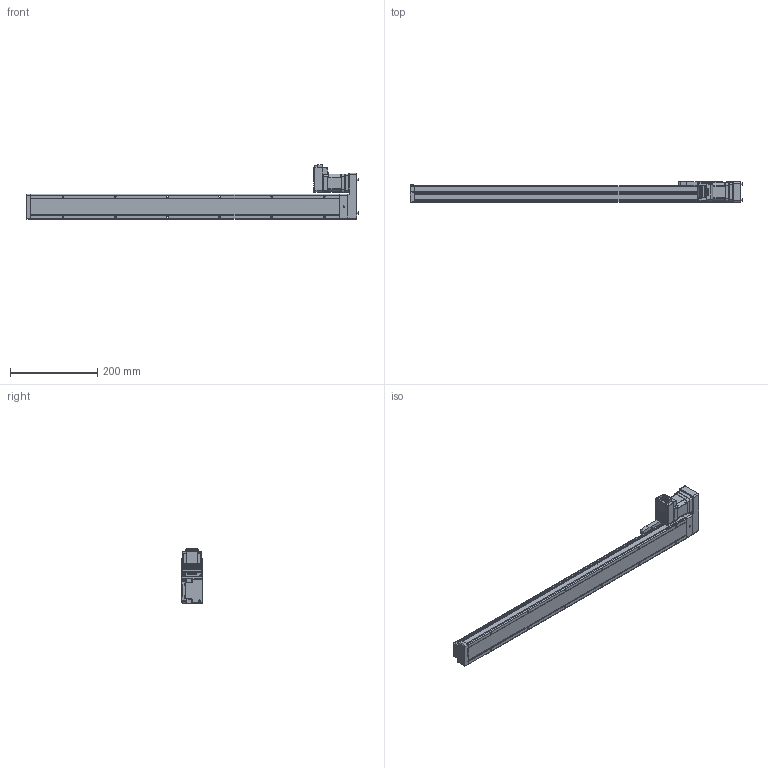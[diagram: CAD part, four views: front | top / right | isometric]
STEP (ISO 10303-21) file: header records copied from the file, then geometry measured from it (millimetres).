
FILE_DESCRIPTION (( 'STEP AP214' ), '1' );
FILE_NAME ('LEFS3(+)-25LNM1□-600-17L.STEP', '2023-05-31T05:00:25', ( '' ), ( '' ), 'SwSTEP 2.0', 'SolidWorks 2019', '' );
FILE_SCHEMA (( 'AUTOMOTIVE_DESIGN' ));
Length unit declared in the file: millimetre
Products named in the file (5): LEFS3(+)-25R(L)NM1仩_MOTOR Flange; LEFS3(+)-25LNM1□-600-17L; LEFS3(+)-25NM1_TABLE; CM3(+)-17L50A; LEFS3(+)-25R(L)NM1仩_BODY_600
Assembly tree (4 placements, depth 2):
  LEFS3(+)-25LNM1□-600-17L
    LEFS3(+)-25R(L)NM1仩_BODY_600
    LEFS3(+)-25NM1_TABLE
    LEFS3(+)-25R(L)NM1仩_MOTOR Flange
    CM3(+)-17L50A
Bounding box: 762.9 x 48 x 125.85 mm (x, y, z)
Volume: 1671078 mm3; surface area: 213019 mm2
Topology: 5 solids, 5 shells, 1027 faces, 2644 edges, 1668 vertices
Faces by surface type: plane 529, cylinder 326, cone 83, torus 39, bspline 29, sphere 21
Entity records: 41957 total; most frequent: CARTESIAN_POINT 7530, ORIENTED_EDGE 5226, DIRECTION 5056, EDGE_CURVE 2613, AXIS2_PLACEMENT_3D 1706, VERTEX_POINT 1668, LINE 1644, VECTOR 1644
